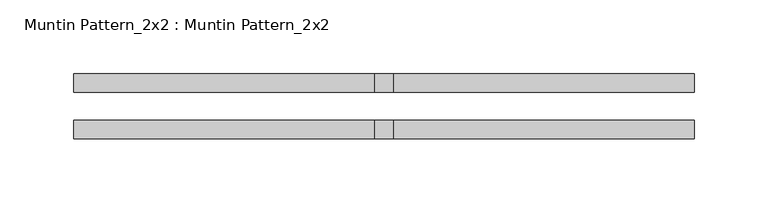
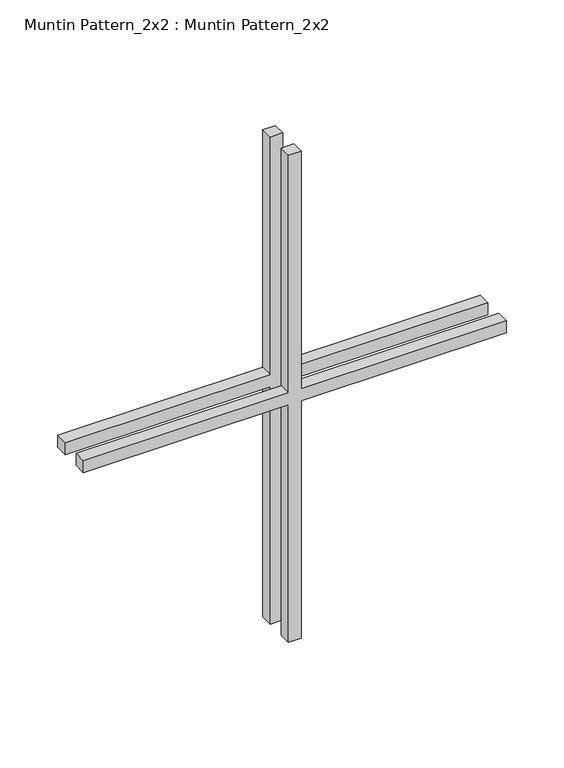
"""IFC4 building model written with IfcOpenShell, lengths in millimetres: proxy geometry, Muntin Pattern_2x2 : Muntin Pattern_2x2."""

from ifc_helpers import new_model, si_unit, frame, origin, place, context, project, spatial, polyline, outline, extrude, source, transform, mapped, element, save


def muntin_pattern_2x2_muntin_pattern_2x2_48eb26af(model_context):
    return source(origin(), model_context, "Body", "SweptSolid", [
        extrude(outline(polyline([(263.525, -6.35), (263.525, -211.1375), (250.825, -211.1375), (250.825, -6.35), (0.0, -6.35), (0.0, 6.35), (250.825, 6.35), (250.825, 211.1375), (263.525, 211.1375), (263.525, 6.35), (514.35, 6.35), (514.35, -6.35), (263.525, -6.35)])), frame((0.0, 9.525, 0.0), z_axis=(0.0, 1.0, 0.0), x_axis=(0.0, 0.0, 1.0)), (0.0, 0.0, 1.0), 12.7),
        extrude(outline(polyline([(263.525, -6.35), (263.525, -211.1375), (250.825, -211.1375), (250.825, -6.35), (0.0, -6.35), (0.0, 6.35), (250.825, 6.35), (250.825, 211.1375), (263.525, 211.1375), (263.525, 6.35), (514.35, 6.35), (514.35, -6.35), (263.525, -6.35)])), frame((0.0, -22.225, 0.0), z_axis=(0.0, 1.0, 0.0), x_axis=(0.0, 0.0, 1.0)), (0.0, 0.0, 1.0), 12.7),
    ])


if __name__ == "__main__":
    model = new_model("IFC4")
    model_context = context("Model", 3, world=origin())
    ifc_project = project(units=[si_unit("LENGTHUNIT", "METRE", prefix="MILLI")], contexts=[model_context])
    site = spatial("IfcSite", under=ifc_project)
    building = spatial("IfcBuilding", under=site)
    placement = place(None, origin())
    muntin_pattern_2x2_muntin_pattern_2x2_shape = muntin_pattern_2x2_muntin_pattern_2x2_48eb26af(model_context)
    element("IfcBuildingElementProxy", 1, Name="Muntin Pattern_2x2 : Muntin Pattern_2x2", ObjectType="Muntin Pattern_2x2 : Muntin Pattern_2x2", at=placement, inside=building, context=model_context, shape_type="MappedRepresentation", body=[
        mapped(muntin_pattern_2x2_muntin_pattern_2x2_shape, transform((0.0, 0.0, 0.0), x_axis=(1.0, 0.0, 0.0), y_axis=(0.0, 1.0, 0.0), z_axis=(0.0, 0.0, 1.0))),
    ])
    save(model, "model.ifc")
